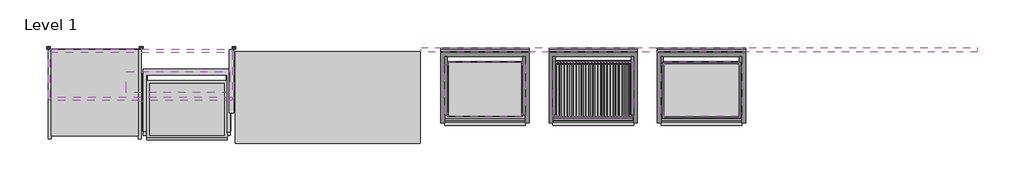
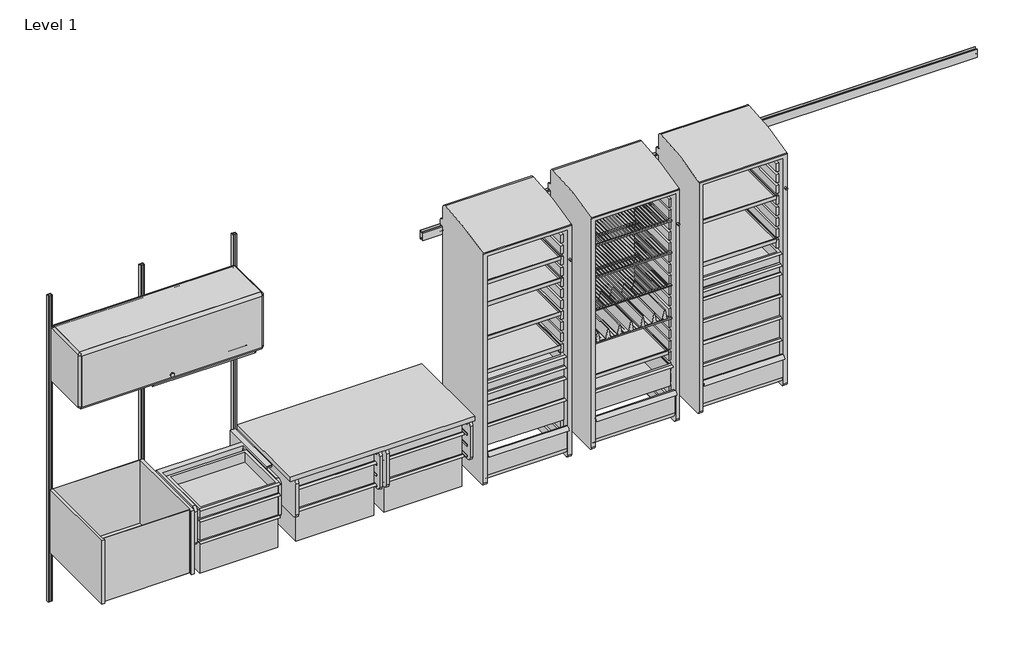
# One storey, incomplete: 47 furniture elements, 1 light fixture.
"""IFC4 building model written with IfcOpenShell, lengths in millimetres."""

from ifc_helpers import new_model, si_unit, origin, place, context, project, spatial, transform, mapped, element, save
from components import furniture_f7d7e143, furniture_a25c7143, furniture_16c4bec0, furniture_ac9ddba1, furniture_27da73ad, furniture_f6e26599, furniture_6a9bea8c, furniture_0eaea0f9, furniture_83f72333, furniture_955c4189, furniture_14b667b5, furniture_1979b876, furniture_60ab3520, furniture_66465d9f, furniture_2bbb03d3, furniture_ebb16344, furniture_8d228605, furniture_ea425779, a_3_c1a7feba, a_3_2d132fd5, a_3_34f6b35d, a_3_9c7b58b7, a_3_f6285bb9, b_6_334becb9, b_6_49bc5308, b_6_eadec2fb, b_6_fe23bc84, b_6_f31ca194, b_6_3d1a9f76, b_6_e21043c8, c_9_16105775, c_9_c2c7ca91, lam_24d_48w_f610a9d3, standard_144w_a9847ba4, light_fixture_30w_for_action_office_7462b566

model = new_model("IFC4")

# Units and contexts
model_context = context("Model", 3, world=origin())
ifc_project = project(units=[si_unit("LENGTHUNIT", "METRE", prefix="MILLI")], contexts=[model_context])

# Site, building, storey
site = spatial("IfcSite", under=ifc_project)
building = spatial("IfcBuilding", under=site)
storey = spatial("IfcBuildingStorey", under=building, Name="Level 1", Elevation=0.0)

# Furniture
placement = place(None, origin())
furniture_shape = furniture_f7d7e143(model_context)
element("IfcFurniture", 1, ObjectType="HermanMiller_CoStruc_CO205_CFrame : 10\"H x 17\"D x 22\"W", at=placement, inside=storey, context=model_context, shape_type="MappedRepresentation", body=[
    mapped(furniture_shape, transform((814.1511551, -230.7049397, 0.0), x_axis=(1.0, 0.0, 0.0), y_axis=(0.0, 1.0, 0.0), z_axis=(0.0, 0.0, 1.0))),
])
element("IfcFurniture", 2, ObjectType="HermanMiller_CoStruc_CO205_CFrame : 10\"H x 17\"D x 22\"W", at=placement, inside=storey, context=model_context, shape_type="MappedRepresentation", body=[
    mapped(furniture_shape, transform((1454.0889151, -281.4338197, 0.0), x_axis=(1.0, 0.0, 0.0), y_axis=(0.0, 1.0, 0.0), z_axis=(0.0, 0.0, 1.0))),
])
element("IfcFurniture", 3, ObjectType="HermanMiller_CoStruc_CO205_CFrame : 10\"H x 17\"D x 22\"W", at=placement, inside=storey, context=model_context, shape_type="MappedRepresentation", body=[
    mapped(furniture_shape, transform((2050.5393351, -281.4338197, 0.0), x_axis=(1.0, 0.0, 0.0), y_axis=(0.0, 1.0, 0.0), z_axis=(0.0, 0.0, 1.0))),
])
furniture_2_shape = furniture_a25c7143(model_context)
element("IfcFurniture", 4, ObjectType="HermanMiller_CoStruc_CO266_GripperPackage : 15\"D x 22-1/2\"W", at=placement, inside=storey, context=model_context, shape_type="MappedRepresentation", body=[
    mapped(furniture_2_shape, transform((909.2692, -174.70882, 0.0), x_axis=(1.0, 0.0, 0.0), y_axis=(0.0, 1.0, 0.0), z_axis=(0.0, 0.0, 1.0))),
])
furniture_3_shape = furniture_16c4bec0(model_context)
element("IfcFurniture", 5, ObjectType="HermanMiller_CoStruc_CO203_CTrayShelf : 14\"D x 20\"W", at=placement, inside=storey, context=model_context, shape_type="MappedRepresentation", body=[
    mapped(furniture_3_shape, transform((2869.41006, -280.86558, 0.0), x_axis=(1.0, 0.0, 0.0), y_axis=(0.0, 1.0, 0.0), z_axis=(0.0, 0.0, 1.0))),
])
furniture_4_shape = furniture_ac9ddba1(model_context)
element("IfcFurniture", 6, ObjectType="HermanMiller_CoStruc_CO561_LockerWithTambourDoor : 66\"H x 20\"D x 22\"W Wlock", at=placement, inside=storey, context=model_context, shape_type="MappedRepresentation", body=[
    mapped(furniture_4_shape, transform((2869.35164, -257.78206, 0.0), x_axis=(1.0, 0.0, 0.0), y_axis=(0.0, 1.0, 0.0), z_axis=(0.0, 0.0, 1.0))),
])
element("IfcFurniture", 7, ObjectType="HermanMiller_CoStruc_CO561_LockerWithTambourDoor : 66\"H x 20\"D x 22\"W Wlock", at=placement, inside=storey, context=model_context, shape_type="MappedRepresentation", body=[
    mapped(furniture_4_shape, transform((3580.55164, -257.78206, 0.0), x_axis=(1.0, 0.0, 0.0), y_axis=(0.0, 1.0, 0.0), z_axis=(0.0, 0.0, 1.0))),
])
element("IfcFurniture", 8, ObjectType="HermanMiller_CoStruc_CO561_LockerWithTambourDoor : 66\"H x 20\"D x 22\"W Wlock", at=placement, inside=storey, context=model_context, shape_type="MappedRepresentation", body=[
    mapped(furniture_4_shape, transform((4291.75164, -257.78206, 0.0), x_axis=(1.0, 0.0, 0.0), y_axis=(0.0, 1.0, 0.0), z_axis=(0.0, 0.0, 1.0))),
])
furniture_5_shape = furniture_27da73ad(model_context)
element("IfcFurniture", 9, ObjectType="HermanMiller_CoStruc_CO242_Subdivider Vane : 2 5/8\"Hx13 3/4\"D x 18 1/2\"W", at=placement, inside=storey, context=model_context, shape_type="MappedRepresentation", body=[
    mapped(furniture_5_shape, transform((3577.1391117, -290.00958, 0.0), x_axis=(1.0, 0.0, 0.0), y_axis=(0.0, 1.0, 0.0), z_axis=(0.0, 0.0, 1.0))),
])
furniture_6_shape = furniture_f6e26599(model_context)
element("IfcFurniture", 10, ObjectType="HermanMiller_CoStruc_CO203_CTrayShelf : 14\"D x 20\"W", at=placement, inside=storey, context=model_context, shape_type="MappedRepresentation", body=[
    mapped(furniture_6_shape, transform((2869.41006, -280.86558, 0.0), x_axis=(1.0, 0.0, 0.0), y_axis=(0.0, 1.0, 0.0), z_axis=(0.0, 0.0, 1.0))),
])
furniture_7_shape = furniture_6a9bea8c(model_context)
element("IfcFurniture", 11, ObjectType="HermanMiller_CoStruc_CO203_CTrayShelf : 14\"D x 20\"W", at=placement, inside=storey, context=model_context, shape_type="MappedRepresentation", body=[
    mapped(furniture_7_shape, transform((2869.41006, -280.86558, 0.0), x_axis=(1.0, 0.0, 0.0), y_axis=(0.0, 1.0, 0.0), z_axis=(0.0, 0.0, 1.0))),
])
furniture_8_shape = furniture_0eaea0f9(model_context)
element("IfcFurniture", 12, ObjectType="HermanMiller_CoStruc_CO203_CTrayShelf : 14\"D x 20\"W", at=placement, inside=storey, context=model_context, shape_type="MappedRepresentation", body=[
    mapped(furniture_8_shape, transform((2869.41006, -280.86558, 0.0), x_axis=(1.0, 0.0, 0.0), y_axis=(0.0, 1.0, 0.0), z_axis=(0.0, 0.0, 1.0))),
])
furniture_9_shape = furniture_83f72333(model_context)
element("IfcFurniture", 13, ObjectType="HermanMiller_CoStruc_CO203_CTrayShelf : 14\"D x 20\"W", at=placement, inside=storey, context=model_context, shape_type="MappedRepresentation", body=[
    mapped(furniture_9_shape, transform((3578.79396, -279.27808, 0.0), x_axis=(-1.0, 0.0, 0.0), y_axis=(0.0, -1.0, 0.0), z_axis=(0.0, 0.0, 1.0))),
])
furniture_10_shape = furniture_955c4189(model_context)
element("IfcFurniture", 14, ObjectType="HermanMiller_CoStruc_CO252_CWireShelf : 14D x 20W", at=placement, inside=storey, context=model_context, shape_type="MappedRepresentation", body=[
    mapped(furniture_10_shape, transform((3580.61006, -280.86558, 0.0), x_axis=(1.0, 0.0, 0.0), y_axis=(0.0, 1.0, 0.0), z_axis=(0.0, 0.0, 1.0))),
])
furniture_11_shape = furniture_14b667b5(model_context)
element("IfcFurniture", 15, ObjectType="HermanMiller_CoStruc_CO252_CWireShelf : 14D x 20W", at=placement, inside=storey, context=model_context, shape_type="MappedRepresentation", body=[
    mapped(furniture_11_shape, transform((3580.61006, -280.86558, 0.0), x_axis=(1.0, 0.0, 0.0), y_axis=(0.0, 1.0, 0.0), z_axis=(0.0, 0.0, 1.0))),
])
element("IfcFurniture", 16, ObjectType="HermanMiller_CoStruc_CO252_CWireShelf : 14D x 20W", at=placement, inside=storey, context=model_context, shape_type="MappedRepresentation", body=[
    mapped(furniture_11_shape, transform((3580.61006, -280.86558, 228.6), x_axis=(1.0, 0.0, 0.0), y_axis=(0.0, 1.0, 0.0), z_axis=(0.0, 0.0, 1.0))),
])
furniture_12_shape = furniture_1979b876(model_context)
element("IfcFurniture", 17, ObjectType="HermanMiller_CoStruc_CO252_CWireShelf : 14D x 20W", at=placement, inside=storey, context=model_context, shape_type="MappedRepresentation", body=[
    mapped(furniture_12_shape, transform((3580.61006, -280.86558, 0.0), x_axis=(1.0, 0.0, 0.0), y_axis=(0.0, 1.0, 0.0), z_axis=(0.0, 0.0, 1.0))),
])
furniture_13_shape = furniture_60ab3520(model_context)
element("IfcFurniture", 18, ObjectType="HermanMiller_CoStruc_CO203_CTrayShelf : 14\"D x 20\"W", at=placement, inside=storey, context=model_context, shape_type="MappedRepresentation", body=[
    mapped(furniture_13_shape, transform((4291.81006, -280.86558, 0.0), x_axis=(1.0, 0.0, 0.0), y_axis=(0.0, 1.0, 0.0), z_axis=(0.0, 0.0, 1.0))),
])
furniture_14_shape = furniture_66465d9f(model_context)
element("IfcFurniture", 19, ObjectType="HermanMiller_CoStruc_CO203_CTrayShelf : 14\"D x 20\"W", at=placement, inside=storey, context=model_context, shape_type="MappedRepresentation", body=[
    mapped(furniture_14_shape, transform((4291.81006, -280.86558, 0.0), x_axis=(1.0, 0.0, 0.0), y_axis=(0.0, 1.0, 0.0), z_axis=(0.0, 0.0, 1.0))),
])
furniture_15_shape = furniture_2bbb03d3(model_context)
element("IfcFurniture", 20, ObjectType="HermanMiller_CoStruc_C2513_SinkUnitForStorage : 19\"H x 24\"D x 48\"W", at=placement, inside=storey, context=model_context, shape_type="MappedRepresentation", body=[
    mapped(furniture_15_shape, transform((304.8, -187.325, 0.0), x_axis=(1.0, 0.0, 0.0), y_axis=(0.0, 1.0, 0.0), z_axis=(0.0, 0.0, 1.0))),
])
furniture_16_shape = furniture_ebb16344(model_context)
element("IfcFurniture", 21, ObjectType="HermanMiller_ActionOffice_B-StyleFlipperDoor : Paint 15-1/2H x 13D x 48W", at=placement, inside=storey, context=model_context, shape_type="MappedRepresentation", body=[
    mapped(furniture_16_shape, transform((609.6, -200.025, 457.2), x_axis=(1.0, 0.0, 0.0), y_axis=(0.0, 1.0, 0.0), z_axis=(0.0, 0.0, 1.0))),
])
furniture_17_shape = furniture_8d228605(model_context)
element("IfcFurniture", 22, ObjectType="HermanMiller_CoStruc_B-StyleShelf : 15-1/2H x 13D x 48W", at=placement, inside=storey, context=model_context, shape_type="MappedRepresentation", body=[
    mapped(furniture_17_shape, transform((733.5420045, -200.025, 457.2), x_axis=(1.0, 0.0, 0.0), y_axis=(0.0, 1.0, 0.0), z_axis=(0.0, 0.0, 1.0))),
])
furniture_18_shape = furniture_ea425779(model_context)
element("IfcFurniture", 23, ObjectType="HermanMiller_ActionOffice_AO213_WallStrip : 84\"H", at=placement, inside=storey, context=model_context, shape_type="MappedRepresentation", body=[
    mapped(furniture_18_shape, transform((609.6, 0.0, 0.0), x_axis=(1.0, 0.0, 0.0), y_axis=(0.0, 1.0, 0.0), z_axis=(0.0, 0.0, 1.0))),
])
element("IfcFurniture", 24, ObjectType="HermanMiller_ActionOffice_AO213_WallStrip : 84\"H", at=placement, inside=storey, context=model_context, shape_type="MappedRepresentation", body=[
    mapped(furniture_18_shape, transform((1219.2, 0.0, 0.0), x_axis=(1.0, 0.0, 0.0), y_axis=(0.0, 1.0, 0.0), z_axis=(0.0, 0.0, 1.0))),
])
element("IfcFurniture", 25, ObjectType="HermanMiller_ActionOffice_AO213_WallStrip : 84\"H", at=placement, inside=storey, context=model_context, shape_type="MappedRepresentation", body=[
    mapped(furniture_18_shape, transform((0.0, 0.0, 0.0), x_axis=(1.0, 0.0, 0.0), y_axis=(0.0, 1.0, 0.0), z_axis=(0.0, 0.0, 1.0))),
])
a_3_shape = a_3_c1a7feba(model_context)
element("IfcFurniture", 26, ObjectType="HermanMiller_CoStruc_CO207_Drawer : A - 3", at=placement, inside=storey, context=model_context, shape_type="MappedRepresentation", body=[
    mapped(a_3_shape, transform((2123.7333317, -419.20922, 0.0), x_axis=(1.0, 0.0, 0.0), y_axis=(0.0, 1.0, 0.0), z_axis=(0.0, 0.0, 1.0))),
])
element("IfcFurniture", 27, ObjectType="HermanMiller_CoStruc_CO207_Drawer : A - 3", at=placement, inside=storey, context=model_context, shape_type="MappedRepresentation", body=[
    mapped(a_3_shape, transform((1545.8833317, -419.20922, 0.0), x_axis=(1.0, 0.0, 0.0), y_axis=(0.0, 1.0, 0.0), z_axis=(0.0, 0.0, 1.0))),
])
element("IfcFurniture", 28, ObjectType="HermanMiller_CoStruc_CO207_Drawer : A - 3", at=placement, inside=storey, context=model_context, shape_type="MappedRepresentation", body=[
    mapped(a_3_shape, transform((910.7893517, -419.20922, 0.0), x_axis=(1.0, 0.0, 0.0), y_axis=(0.0, 1.0, 0.0), z_axis=(0.0, 0.0, 1.0))),
])
a_3_2_shape = a_3_2d132fd5(model_context)
element("IfcFurniture", 29, ObjectType="HermanMiller_CoStruc_CO207_Drawer : A - 3", at=placement, inside=storey, context=model_context, shape_type="MappedRepresentation", body=[
    mapped(a_3_2_shape, transform((2869.3427117, -293.56558, 0.0), x_axis=(1.0, 0.0, 0.0), y_axis=(0.0, 1.0, 0.0), z_axis=(0.0, 0.0, 1.0))),
])
a_3_3_shape = a_3_34f6b35d(model_context)
element("IfcFurniture", 30, ObjectType="HermanMiller_CoStruc_CO207_Drawer : A - 3", at=placement, inside=storey, context=model_context, shape_type="MappedRepresentation", body=[
    mapped(a_3_3_shape, transform((2869.3427117, -293.56558, 0.0), x_axis=(1.0, 0.0, 0.0), y_axis=(0.0, 1.0, 0.0), z_axis=(0.0, 0.0, 1.0))),
])
a_3_4_shape = a_3_9c7b58b7(model_context)
element("IfcFurniture", 31, ObjectType="HermanMiller_CoStruc_CO207_Drawer : A - 3", at=placement, inside=storey, context=model_context, shape_type="MappedRepresentation", body=[
    mapped(a_3_4_shape, transform((4291.7427117, -293.56558, 0.0), x_axis=(1.0, 0.0, 0.0), y_axis=(0.0, 1.0, 0.0), z_axis=(0.0, 0.0, 1.0))),
])
a_3_5_shape = a_3_f6285bb9(model_context)
element("IfcFurniture", 32, ObjectType="HermanMiller_CoStruc_CO207_Drawer : A - 3", at=placement, inside=storey, context=model_context, shape_type="MappedRepresentation", body=[
    mapped(a_3_5_shape, transform((4291.7427117, -293.56558, 0.0), x_axis=(1.0, 0.0, 0.0), y_axis=(0.0, 1.0, 0.0), z_axis=(0.0, 0.0, 1.0))),
])
b_6_shape = b_6_334becb9(model_context)
element("IfcFurniture", 33, ObjectType="HermanMiller_CoStruc_CO207_Drawer : B - 6", at=placement, inside=storey, context=model_context, shape_type="MappedRepresentation", body=[
    mapped(b_6_shape, transform((2123.7333317, -419.20922, 0.0), x_axis=(1.0, 0.0, 0.0), y_axis=(0.0, 1.0, 0.0), z_axis=(0.0, 0.0, 1.0))),
])
element("IfcFurniture", 34, ObjectType="HermanMiller_CoStruc_CO207_Drawer : B - 6", at=placement, inside=storey, context=model_context, shape_type="MappedRepresentation", body=[
    mapped(b_6_shape, transform((1545.8833317, -419.20922, 0.0), x_axis=(1.0, 0.0, 0.0), y_axis=(0.0, 1.0, 0.0), z_axis=(0.0, 0.0, 1.0))),
])
element("IfcFurniture", 35, ObjectType="HermanMiller_CoStruc_CO207_Drawer : B - 6", at=placement, inside=storey, context=model_context, shape_type="MappedRepresentation", body=[
    mapped(b_6_shape, transform((910.7893517, -419.20922, 0.0), x_axis=(1.0, 0.0, 0.0), y_axis=(0.0, 1.0, 0.0), z_axis=(0.0, 0.0, 1.0))),
])
b_6_2_shape = b_6_49bc5308(model_context)
element("IfcFurniture", 36, ObjectType="HermanMiller_CoStruc_CO207_Drawer : B - 6", at=placement, inside=storey, context=model_context, shape_type="MappedRepresentation", body=[
    mapped(b_6_2_shape, transform((2869.3427117, -293.56558, 0.0), x_axis=(1.0, 0.0, 0.0), y_axis=(0.0, 1.0, 0.0), z_axis=(0.0, 0.0, 1.0))),
])
b_6_3_shape = b_6_eadec2fb(model_context)
element("IfcFurniture", 37, ObjectType="HermanMiller_CoStruc_CO207_Drawer : B - 6", at=placement, inside=storey, context=model_context, shape_type="MappedRepresentation", body=[
    mapped(b_6_3_shape, transform((2869.3427117, -293.56558, 0.0), x_axis=(1.0, 0.0, 0.0), y_axis=(0.0, 1.0, 0.0), z_axis=(0.0, 0.0, 1.0))),
])
b_6_4_shape = b_6_fe23bc84(model_context)
element("IfcFurniture", 38, ObjectType="HermanMiller_CoStruc_CO207_Drawer : B - 6", at=placement, inside=storey, context=model_context, shape_type="MappedRepresentation", body=[
    mapped(b_6_4_shape, transform((4291.7427117, -293.56558, 0.0), x_axis=(1.0, 0.0, 0.0), y_axis=(0.0, 1.0, 0.0), z_axis=(0.0, 0.0, 1.0))),
])
b_6_5_shape = b_6_f31ca194(model_context)
element("IfcFurniture", 39, ObjectType="HermanMiller_CoStruc_CO207_Drawer : B - 6", at=placement, inside=storey, context=model_context, shape_type="MappedRepresentation", body=[
    mapped(b_6_5_shape, transform((4291.7427117, -293.56558, 0.0), x_axis=(1.0, 0.0, 0.0), y_axis=(0.0, 1.0, 0.0), z_axis=(0.0, 0.0, 1.0))),
])
b_6_6_shape = b_6_3d1a9f76(model_context)
element("IfcFurniture", 40, ObjectType="HermanMiller_CoStruc_CO207_Drawer : B - 6", at=placement, inside=storey, context=model_context, shape_type="MappedRepresentation", body=[
    mapped(b_6_6_shape, transform((3577.1391117, -288.82848, 0.0), x_axis=(1.0, 0.0, 0.0), y_axis=(0.0, 1.0, 0.0), z_axis=(0.0, 0.0, 1.0))),
])
b_6_7_shape = b_6_e21043c8(model_context)
element("IfcFurniture", 41, ObjectType="HermanMiller_CoStruc_CO207_Drawer : B - 6", at=placement, inside=storey, context=model_context, shape_type="MappedRepresentation", body=[
    mapped(b_6_7_shape, transform((4291.7427117, -293.56558, 0.0), x_axis=(1.0, 0.0, 0.0), y_axis=(0.0, 1.0, 0.0), z_axis=(0.0, 0.0, 1.0))),
])
c_9_shape = c_9_16105775(model_context)
element("IfcFurniture", 42, ObjectType="HermanMiller_CoStruc_CO207_Drawer : C - 9", at=placement, inside=storey, context=model_context, shape_type="MappedRepresentation", body=[
    mapped(c_9_shape, transform((2123.7333317, -419.20922, 0.0), x_axis=(1.0, 0.0, 0.0), y_axis=(0.0, 1.0, 0.0), z_axis=(0.0, 0.0, 1.0))),
])
element("IfcFurniture", 43, ObjectType="HermanMiller_CoStruc_CO207_Drawer : C - 9", at=placement, inside=storey, context=model_context, shape_type="MappedRepresentation", body=[
    mapped(c_9_shape, transform((1545.8833317, -419.20922, 0.0), x_axis=(1.0, 0.0, 0.0), y_axis=(0.0, 1.0, 0.0), z_axis=(0.0, 0.0, 1.0))),
])
element("IfcFurniture", 44, ObjectType="HermanMiller_CoStruc_CO207_Drawer : C - 9", at=placement, inside=storey, context=model_context, shape_type="MappedRepresentation", body=[
    mapped(c_9_shape, transform((910.7893517, -419.20922, 0.0), x_axis=(1.0, 0.0, 0.0), y_axis=(0.0, 1.0, 0.0), z_axis=(0.0, 0.0, 1.0))),
])
c_9_2_shape = c_9_c2c7ca91(model_context)
element("IfcFurniture", 45, ObjectType="HermanMiller_CoStruc_CO207_Drawer : C - 9", at=placement, inside=storey, context=model_context, shape_type="MappedRepresentation", body=[
    mapped(c_9_2_shape, transform((4291.7427117, -293.56558, 0.0), x_axis=(1.0, 0.0, 0.0), y_axis=(0.0, 1.0, 0.0), z_axis=(0.0, 0.0, 1.0))),
])
lam_24d_48w_shape = lam_24d_48w_f610a9d3(model_context)
element("IfcFurniture", 46, ObjectType="HermanMiller_CoStruc_C4700_RectangularWorkTableSurface : Lam 24D 48W", at=placement, inside=storey, context=model_context, shape_type="MappedRepresentation", body=[
    mapped(lam_24d_48w_shape, transform((1223.8355, -29.6926, 0.0), x_axis=(1.0, 0.0, 0.0), y_axis=(0.0, 1.0, 0.0), z_axis=(0.0, 0.0, 1.0))),
])
standard_144w_shape = standard_144w_a9847ba4(model_context)
element("IfcFurniture", 47, ObjectType="HermanMiller_CoStruc_CO282_StandardRail : Standard 144W", at=placement, inside=storey, context=model_context, shape_type="MappedRepresentation", body=[
    mapped(standard_144w_shape, transform((4344.7846925, -9.525, 0.0), x_axis=(1.0, 0.0, 0.0), y_axis=(0.0, 1.0, 0.0), z_axis=(0.0, 0.0, 1.0))),
])

# Light fixture
light_fixture_30w_for_action_office_shape = light_fixture_30w_for_action_office_7462b566(model_context)
element("IfcLightFixture", 48, ObjectType="HermanMiller_SupplementalProducts_G6170_EUnderShelfLEDTaskLight : 30W for Action Office", at=placement, inside=storey, context=model_context, shape_type="MappedRepresentation", body=[
    mapped(light_fixture_30w_for_action_office_shape, transform((852.1696076, -234.95, 412.75), x_axis=(1.0, 0.0, 0.0), y_axis=(0.0, 1.0, 0.0), z_axis=(0.0, 0.0, 1.0))),
])

save(model, "model.ifc")
